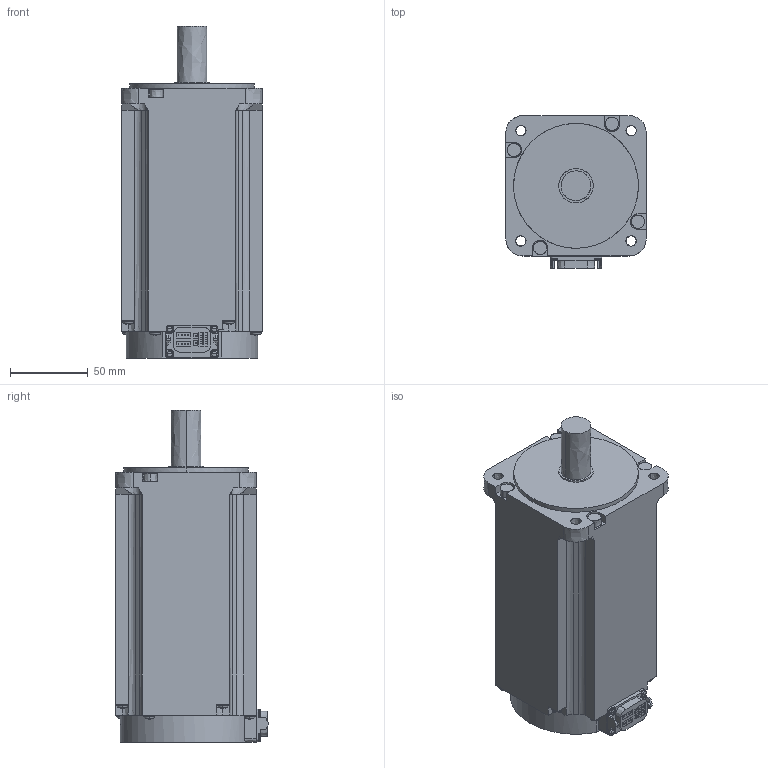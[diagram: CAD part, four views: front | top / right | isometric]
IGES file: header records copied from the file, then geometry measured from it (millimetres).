
Start section:  PTC IGES file: hk-kt202(4)w(j)_.igs
Global section: file name: hk-kt202(4)w(j)_.igs; native system: Creo Parametric by PTC Inc.; preprocessor: 2016380; author: XE90682; organization: Unknown; date: 20190118.131555; units: millimetre
Bounding box: 90 x 97.65 x 212.9 mm (x, y, z)
Volume: 1229923.1 mm3; surface area: 79609.8 mm2
Topology: 1 solids, 1 shells, 397 faces, 1028 edges, 652 vertices
Faces by surface type: bspline 397
